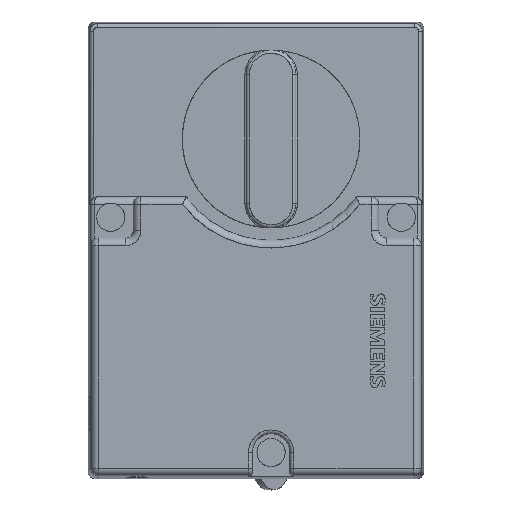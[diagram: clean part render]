
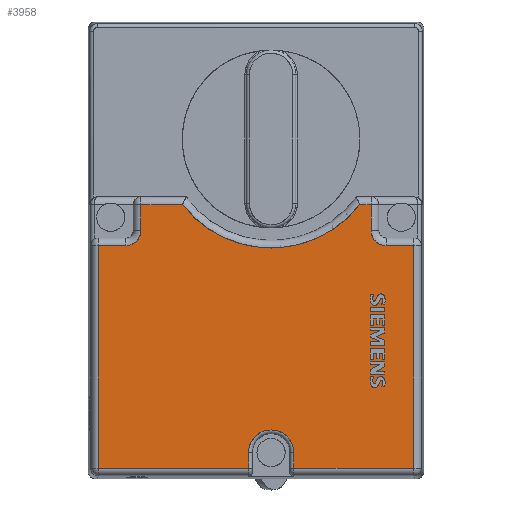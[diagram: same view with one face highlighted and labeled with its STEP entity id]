
A CAD part, front view. The second image highlights one B-rep face of the part: STEP entity #3958.
In plain terms, the highlighted planar face has unit normal (0, -1, 0).
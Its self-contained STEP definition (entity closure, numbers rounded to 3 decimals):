
#218=LINE('',#11708,#870);
#219=LINE('',#11710,#871);
#220=LINE('',#11712,#872);
#221=LINE('',#11714,#873);
#222=LINE('',#11734,#874);
#223=LINE('',#11736,#875);
#224=LINE('',#11738,#876);
#225=LINE('',#11740,#877);
#226=LINE('',#11749,#878);
#227=LINE('',#11751,#879);
#228=LINE('',#11767,#880);
#229=LINE('',#11769,#881);
#870=VECTOR('',#9898,1.);
#871=VECTOR('',#9899,1.);
#872=VECTOR('',#9900,1.);
#873=VECTOR('',#9901,1.);
#874=VECTOR('',#9902,1.);
#875=VECTOR('',#9903,1.);
#876=VECTOR('',#9904,1.);
#877=VECTOR('',#9905,1.);
#878=VECTOR('',#9906,1.);
#879=VECTOR('',#9907,1.);
#880=VECTOR('',#9908,1.);
#881=VECTOR('',#9909,1.);
#1502=PLANE('',#9350);
#3958=ADVANCED_FACE('',(#4227),#1502,.T.);
#4227=FACE_OUTER_BOUND('',#4470,.T.);
#4470=EDGE_LOOP('',(#5180,#5181,#5182,#5183,#5184,#5185,#5186,#5187,#5188,
#5189,#5190,#5191,#5192,#5193,#5194,#5195,#5196,#5197));
#4743=B_SPLINE_CURVE_WITH_KNOTS('',3,(#11700,#11701,#11702,#11703,#11704,
#11705),.UNSPECIFIED.,.F.,.F.,(4,2,4),(0.,0.5,1.),.UNSPECIFIED.);
#4744=B_SPLINE_CURVE_WITH_KNOTS('',3,(#11716,#11717,#11718,#11719,#11720,
#11721,#11722,#11723),.UNSPECIFIED.,.F.,.F.,(4,2,2,4),(0.,0.5,0.75,1.),.UNSPECIFIED.);
#4745=B_SPLINE_CURVE_WITH_KNOTS('',3,(#11725,#11726,#11727,#11728,#11729,
#11730,#11731,#11732),.UNSPECIFIED.,.F.,.F.,(4,2,2,4),(0.,0.5,0.75,1.),.UNSPECIFIED.);
#4746=B_SPLINE_CURVE_WITH_KNOTS('',3,(#11742,#11743,#11744,#11745,#11746,
#11747),.UNSPECIFIED.,.F.,.F.,(4,2,4),(0.,0.5,1.),.UNSPECIFIED.);
#4747=B_SPLINE_CURVE_WITH_KNOTS('',3,(#11753,#11754,#11755,#11756,#11757,
#11758),.UNSPECIFIED.,.F.,.F.,(4,2,4),(0.,0.5,1.),.UNSPECIFIED.);
#4748=B_SPLINE_CURVE_WITH_KNOTS('',3,(#11760,#11761,#11762,#11763,#11764,
#11765),.UNSPECIFIED.,.F.,.F.,(4,2,4),(0.,0.5,1.),.UNSPECIFIED.);
#5180=ORIENTED_EDGE('',*,*,#7815,.T.);
#5181=ORIENTED_EDGE('',*,*,#7816,.T.);
#5182=ORIENTED_EDGE('',*,*,#7817,.T.);
#5183=ORIENTED_EDGE('',*,*,#7818,.T.);
#5184=ORIENTED_EDGE('',*,*,#7819,.T.);
#5185=ORIENTED_EDGE('',*,*,#7820,.T.);
#5186=ORIENTED_EDGE('',*,*,#7821,.T.);
#5187=ORIENTED_EDGE('',*,*,#7822,.T.);
#5188=ORIENTED_EDGE('',*,*,#7823,.T.);
#5189=ORIENTED_EDGE('',*,*,#7824,.T.);
#5190=ORIENTED_EDGE('',*,*,#7825,.T.);
#5191=ORIENTED_EDGE('',*,*,#7826,.T.);
#5192=ORIENTED_EDGE('',*,*,#7827,.T.);
#5193=ORIENTED_EDGE('',*,*,#7828,.T.);
#5194=ORIENTED_EDGE('',*,*,#7829,.T.);
#5195=ORIENTED_EDGE('',*,*,#7830,.T.);
#5196=ORIENTED_EDGE('',*,*,#7831,.T.);
#5197=ORIENTED_EDGE('',*,*,#7832,.T.);
#6497=VERTEX_POINT('',#11706);
#6498=VERTEX_POINT('',#11707);
#6499=VERTEX_POINT('',#11709);
#6500=VERTEX_POINT('',#11711);
#6501=VERTEX_POINT('',#11713);
#6502=VERTEX_POINT('',#11715);
#6503=VERTEX_POINT('',#11724);
#6504=VERTEX_POINT('',#11733);
#6505=VERTEX_POINT('',#11735);
#6506=VERTEX_POINT('',#11737);
#6507=VERTEX_POINT('',#11739);
#6508=VERTEX_POINT('',#11741);
#6509=VERTEX_POINT('',#11748);
#6510=VERTEX_POINT('',#11750);
#6511=VERTEX_POINT('',#11752);
#6512=VERTEX_POINT('',#11759);
#6513=VERTEX_POINT('',#11766);
#6514=VERTEX_POINT('',#11768);
#7815=EDGE_CURVE('',#6497,#6498,#4743,.T.);
#7816=EDGE_CURVE('',#6498,#6499,#218,.T.);
#7817=EDGE_CURVE('',#6499,#6500,#219,.T.);
#7818=EDGE_CURVE('',#6500,#6501,#220,.T.);
#7819=EDGE_CURVE('',#6501,#6502,#221,.T.);
#7820=EDGE_CURVE('',#6502,#6503,#4744,.T.);
#7821=EDGE_CURVE('',#6503,#6504,#4745,.T.);
#7822=EDGE_CURVE('',#6504,#6505,#222,.T.);
#7823=EDGE_CURVE('',#6505,#6506,#223,.T.);
#7824=EDGE_CURVE('',#6506,#6507,#224,.T.);
#7825=EDGE_CURVE('',#6507,#6508,#225,.T.);
#7826=EDGE_CURVE('',#6508,#6509,#4746,.T.);
#7827=EDGE_CURVE('',#6509,#6510,#226,.T.);
#7828=EDGE_CURVE('',#6510,#6511,#227,.T.);
#7829=EDGE_CURVE('',#6511,#6512,#4747,.T.);
#7830=EDGE_CURVE('',#6512,#6513,#4748,.T.);
#7831=EDGE_CURVE('',#6513,#6514,#228,.T.);
#7832=EDGE_CURVE('',#6514,#6497,#229,.T.);
#9350=AXIS2_PLACEMENT_3D('',#11770,#9910,#9911);
#9898=DIRECTION('',(-1.,0.,0.));
#9899=DIRECTION('',(0.,0.,-1.));
#9900=DIRECTION('',(1.,0.,0.));
#9901=DIRECTION('',(0.,0.,1.));
#9902=DIRECTION('',(0.,0.,-1.));
#9903=DIRECTION('',(1.,0.,0.));
#9904=DIRECTION('',(0.,0.,1.));
#9905=DIRECTION('',(-1.,0.,0.));
#9906=DIRECTION('',(0.,0.,1.));
#9907=DIRECTION('',(-1.,0.,0.));
#9908=DIRECTION('',(-1.,0.,0.));
#9909=DIRECTION('',(0.,0.,-1.));
#9910=DIRECTION('',(0.,-1.,0.));
#9911=DIRECTION('',(0.,0.,-1.));
#11700=CARTESIAN_POINT('',(-34.5,-73.5,-24.237));
#11701=CARTESIAN_POINT('',(-34.5,-73.5,-25.216));
#11702=CARTESIAN_POINT('',(-34.893,-73.5,-26.286));
#11703=CARTESIAN_POINT('',(-36.45,-73.5,-27.845));
#11704=CARTESIAN_POINT('',(-37.54,-73.5,-28.237));
#11705=CARTESIAN_POINT('',(-38.5,-73.5,-28.237));
#11706=CARTESIAN_POINT('',(-34.5,-73.5,-24.237));
#11707=CARTESIAN_POINT('',(-38.5,-73.5,-28.237));
#11708=CARTESIAN_POINT('',(-4.,-73.5,-28.237));
#11709=CARTESIAN_POINT('',(-45.749,-73.5,-28.237));
#11710=CARTESIAN_POINT('',(-45.749,-73.5,-52.303));
#11711=CARTESIAN_POINT('',(-45.749,-73.5,-87.249));
#11712=CARTESIAN_POINT('',(-4.,-73.5,-87.249));
#11713=CARTESIAN_POINT('',(-5.984,-73.5,-87.249));
#11714=CARTESIAN_POINT('',(-5.984,-73.5,-52.303));
#11715=CARTESIAN_POINT('',(-5.984,-73.5,-83.075));
#11716=CARTESIAN_POINT('',(-5.984,-73.5,-83.075));
#11717=CARTESIAN_POINT('',(-5.984,-73.5,-81.653));
#11718=CARTESIAN_POINT('',(-5.396,-73.5,-80.009));
#11719=CARTESIAN_POINT('',(-3.649,-73.5,-78.261));
#11720=CARTESIAN_POINT('',(-2.931,-73.5,-77.8));
#11721=CARTESIAN_POINT('',(-1.475,-73.5,-77.223));
#11722=CARTESIAN_POINT('',(-0.72,-73.5,-77.091));
#11723=CARTESIAN_POINT('',(0.,-73.5,-77.091));
#11724=CARTESIAN_POINT('',(0.,-73.5,-77.091));
#11725=CARTESIAN_POINT('',(0.,-73.5,-77.091));
#11726=CARTESIAN_POINT('',(1.422,-73.5,-77.091));
#11727=CARTESIAN_POINT('',(3.067,-73.5,-77.679));
#11728=CARTESIAN_POINT('',(4.814,-73.5,-79.426));
#11729=CARTESIAN_POINT('',(5.276,-73.5,-80.145));
#11730=CARTESIAN_POINT('',(5.852,-73.5,-81.601));
#11731=CARTESIAN_POINT('',(5.984,-73.5,-82.355));
#11732=CARTESIAN_POINT('',(5.984,-73.5,-83.075));
#11733=CARTESIAN_POINT('',(5.984,-73.5,-83.075));
#11734=CARTESIAN_POINT('',(5.984,-73.5,-52.303));
#11735=CARTESIAN_POINT('',(5.984,-73.5,-87.249));
#11736=CARTESIAN_POINT('',(-4.,-73.5,-87.249));
#11737=CARTESIAN_POINT('',(37.749,-73.5,-87.249));
#11738=CARTESIAN_POINT('',(37.749,-73.5,-52.303));
#11739=CARTESIAN_POINT('',(37.749,-73.5,-28.237));
#11740=CARTESIAN_POINT('',(-4.,-73.5,-28.237));
#11741=CARTESIAN_POINT('',(30.5,-73.5,-28.237));
#11742=CARTESIAN_POINT('',(30.5,-73.5,-28.237));
#11743=CARTESIAN_POINT('',(29.521,-73.5,-28.237));
#11744=CARTESIAN_POINT('',(28.451,-73.5,-27.844));
#11745=CARTESIAN_POINT('',(26.892,-73.5,-26.287));
#11746=CARTESIAN_POINT('',(26.5,-73.5,-25.197));
#11747=CARTESIAN_POINT('',(26.5,-73.5,-24.237));
#11748=CARTESIAN_POINT('',(26.5,-73.5,-24.237));
#11749=CARTESIAN_POINT('',(26.5,-73.5,-52.303));
#11750=CARTESIAN_POINT('',(26.5,-73.5,-17.358));
#11751=CARTESIAN_POINT('',(-4.,-73.5,-17.358));
#11752=CARTESIAN_POINT('',(23.505,-73.5,-17.358));
#11753=CARTESIAN_POINT('',(23.505,-73.5,-17.358));
#11754=CARTESIAN_POINT('',(20.823,-73.5,-20.82));
#11755=CARTESIAN_POINT('',(17.214,-73.5,-23.823));
#11756=CARTESIAN_POINT('',(8.963,-73.5,-27.868));
#11757=CARTESIAN_POINT('',(4.395,-73.5,-28.881));
#11758=CARTESIAN_POINT('',(0.,-73.5,-28.881));
#11759=CARTESIAN_POINT('',(0.,-73.5,-28.881));
#11760=CARTESIAN_POINT('',(0.,-73.5,-28.881));
#11761=CARTESIAN_POINT('',(-4.38,-73.5,-28.881));
#11762=CARTESIAN_POINT('',(-8.963,-73.5,-27.868));
#11763=CARTESIAN_POINT('',(-17.215,-73.5,-23.823));
#11764=CARTESIAN_POINT('',(-20.813,-73.5,-20.832));
#11765=CARTESIAN_POINT('',(-23.505,-73.5,-17.358));
#11766=CARTESIAN_POINT('',(-23.505,-73.5,-17.358));
#11767=CARTESIAN_POINT('',(-4.,-73.5,-17.358));
#11768=CARTESIAN_POINT('',(-34.5,-73.5,-17.358));
#11769=CARTESIAN_POINT('',(-34.5,-73.5,-52.303));
#11770=CARTESIAN_POINT('',(-47.419,-73.5,-15.96));
